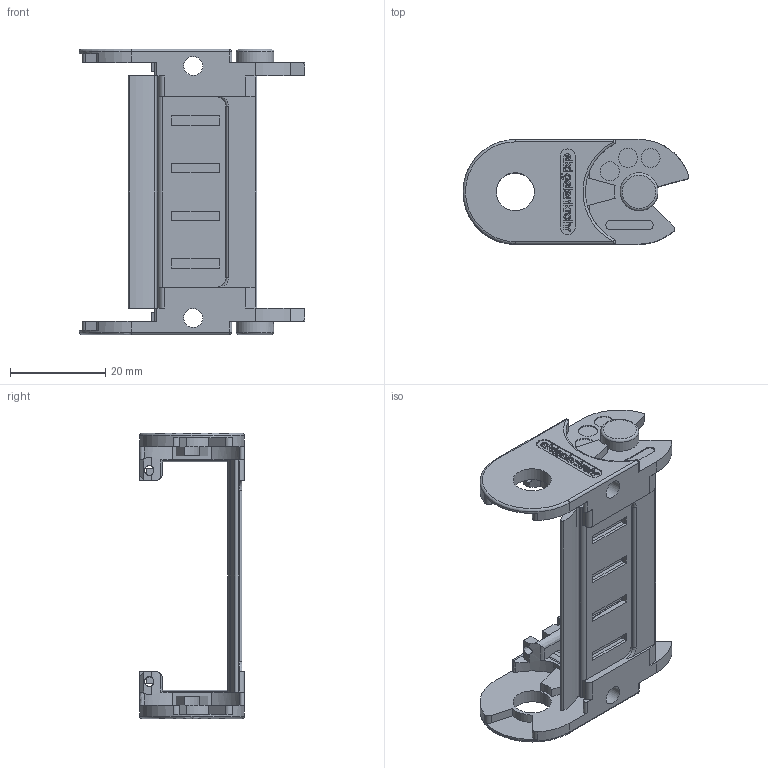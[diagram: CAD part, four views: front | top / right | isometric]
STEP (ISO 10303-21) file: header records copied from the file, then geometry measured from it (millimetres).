
FILE_DESCRIPTION((''),'2;1');
FILE_NAME('E:\Uebbing\PARAMETERKETTEN\KOLIBRI\Kol_22_060_5\Kol_22_060_5_Lasche.stp','2021-07-01T14:25:41',('Nutzer'),(''),'Autodesk Inventor 10','Autodesk Inventor 10','');
FILE_SCHEMA(('AUTOMOTIVE_DESIGN { 1 0 10303 214 1 1 1 1 }'));
Length unit declared in the file: millimetre
Products named in the file (1): Kol_22_060_5_Lasche
Bounding box: 47.5 x 22 x 60 mm (x, y, z)
Volume: 7984.2 mm3; surface area: 8789.2 mm2
Topology: 1 solids, 1 shells, 533 faces, 1423 edges, 926 vertices
Faces by surface type: bspline 256, plane 189, cylinder 82, torus 4, sphere 2
Full cylindrical faces by diameter (mm): 0.804 x1, 1.412 x1, 2 x2, 4 x5, 8 x2
Entity records: 17492 total; most frequent: CARTESIAN_POINT 4874, ORIENTED_EDGE 2774, DIRECTION 2273, EDGE_CURVE 1387, VECTOR 1023, LINE 1023, VERTEX_POINT 918, AXIS2_PLACEMENT_3D 625
